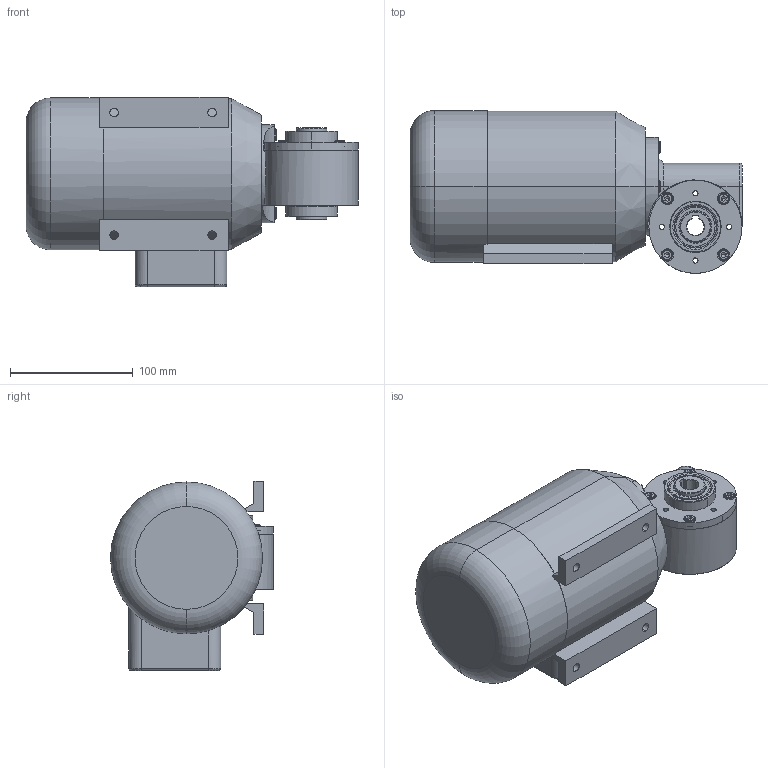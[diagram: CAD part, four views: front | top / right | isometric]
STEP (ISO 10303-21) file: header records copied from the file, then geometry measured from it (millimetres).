
FILE_DESCRIPTION (( 'STEP AP214' ), '1' );
FILE_NAME ('SN3BH_120W_180W_250W_A.STEP', '2021-03-16T12:44:30', ( '' ), ( '' ), 'SwSTEP 2.0', 'SolidWorks 2019', '' );
FILE_SCHEMA (( 'AUTOMOTIVE_DESIGN' ));
Length unit declared in the file: millimetre
Products named in the file (1): SN3BH_120W_180W_250W_A
Bounding box: 271 x 133 x 154.5 mm (x, y, z)
Surface area: 158292.6 mm2 (no closed solid volume)
Topology: 0 solids, 17 shells, 290 faces, 815 edges, 522 vertices
Faces by surface type: cylinder 107, plane 98, cone 66, torus 13, bspline 6
Entity records: 13044 total; most frequent: CARTESIAN_POINT 2290, DIRECTION 1701, ORIENTED_EDGE 1399, EDGE_CURVE 799, AXIS2_PLACEMENT_3D 657, VERTEX_POINT 522, LINE 387, VECTOR 387
